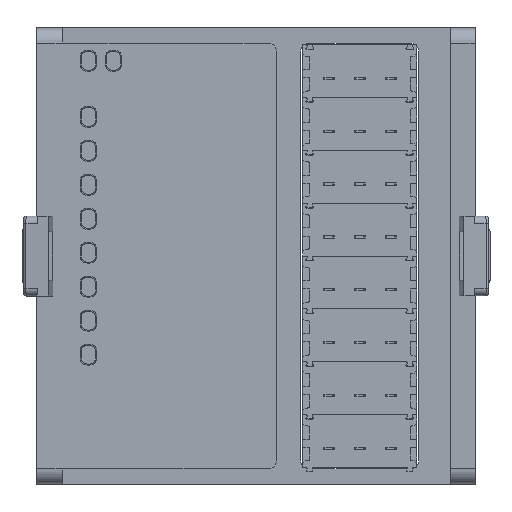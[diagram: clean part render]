
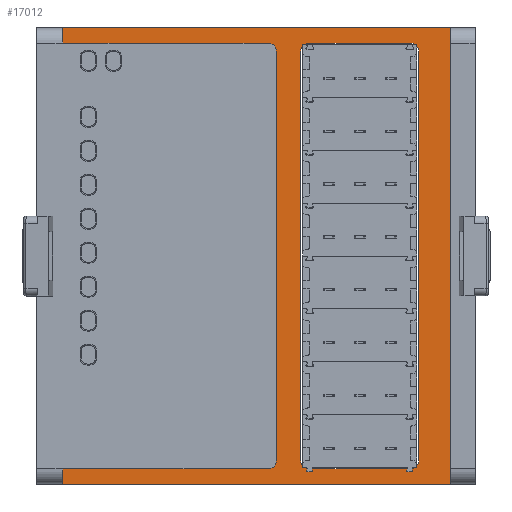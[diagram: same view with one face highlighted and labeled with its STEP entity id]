
A CAD part, front view. The second image highlights one B-rep face of the part: STEP entity #17012.
In plain terms, the highlighted planar face has unit normal (0, -1, 0).
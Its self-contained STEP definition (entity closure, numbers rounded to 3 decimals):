
#2152=FACE_BOUND('',#23176,.T.);
#2153=FACE_BOUND('',#23177,.T.);
#15515=CIRCLE('',#59663,1.);
#15516=CIRCLE('',#59664,1.);
#15517=CIRCLE('',#59665,1.);
#15518=CIRCLE('',#59666,1.);
#15519=CIRCLE('',#59667,1.);
#15520=CIRCLE('',#59668,1.);
#17012=ADVANCED_FACE('',(#2152,#2153),#19247,.T.);
#19247=PLANE('',#59669);
#23176=EDGE_LOOP('',(#26912,#26913,#26914,#26915,#26916,#26917,#26918,#26919,
#26920,#26921,#26922,#26923));
#23177=EDGE_LOOP('',(#26924,#26925,#26926,#26927,#26928,#26929,#26930,#26931));
#26912=ORIENTED_EDGE('',*,*,#43953,.T.);
#26913=ORIENTED_EDGE('',*,*,#43954,.F.);
#26914=ORIENTED_EDGE('',*,*,#43955,.F.);
#26915=ORIENTED_EDGE('',*,*,#43956,.T.);
#26916=ORIENTED_EDGE('',*,*,#43957,.F.);
#26917=ORIENTED_EDGE('',*,*,#43958,.T.);
#26918=ORIENTED_EDGE('',*,*,#43959,.F.);
#26919=ORIENTED_EDGE('',*,*,#43960,.F.);
#26920=ORIENTED_EDGE('',*,*,#43961,.F.);
#26921=ORIENTED_EDGE('',*,*,#43962,.T.);
#26922=ORIENTED_EDGE('',*,*,#43963,.T.);
#26923=ORIENTED_EDGE('',*,*,#43964,.F.);
#26924=ORIENTED_EDGE('',*,*,#43965,.T.);
#26925=ORIENTED_EDGE('',*,*,#43966,.T.);
#26926=ORIENTED_EDGE('',*,*,#43967,.T.);
#26927=ORIENTED_EDGE('',*,*,#43968,.F.);
#26928=ORIENTED_EDGE('',*,*,#43969,.T.);
#26929=ORIENTED_EDGE('',*,*,#43970,.F.);
#26930=ORIENTED_EDGE('',*,*,#43971,.T.);
#26931=ORIENTED_EDGE('',*,*,#43972,.F.);
#39210=VERTEX_POINT('',#77124);
#39211=VERTEX_POINT('',#77125);
#39212=VERTEX_POINT('',#77127);
#39213=VERTEX_POINT('',#77129);
#39214=VERTEX_POINT('',#77131);
#39215=VERTEX_POINT('',#77133);
#39216=VERTEX_POINT('',#77135);
#39217=VERTEX_POINT('',#77137);
#39218=VERTEX_POINT('',#77139);
#39219=VERTEX_POINT('',#77141);
#39220=VERTEX_POINT('',#77143);
#39221=VERTEX_POINT('',#77145);
#39222=VERTEX_POINT('',#77148);
#39223=VERTEX_POINT('',#77149);
#39224=VERTEX_POINT('',#77151);
#39225=VERTEX_POINT('',#77153);
#39226=VERTEX_POINT('',#77155);
#39227=VERTEX_POINT('',#77157);
#39228=VERTEX_POINT('',#77159);
#39229=VERTEX_POINT('',#77161);
#43953=EDGE_CURVE('',#39210,#39211,#15515,.T.);
#43954=EDGE_CURVE('',#39212,#39211,#50326,.T.);
#43955=EDGE_CURVE('',#39213,#39212,#50327,.T.);
#43956=EDGE_CURVE('',#39213,#39214,#50328,.T.);
#43957=EDGE_CURVE('',#39215,#39214,#50329,.T.);
#43958=EDGE_CURVE('',#39215,#39216,#50330,.T.);
#43959=EDGE_CURVE('',#39217,#39216,#50331,.T.);
#43960=EDGE_CURVE('',#39218,#39217,#50332,.T.);
#43961=EDGE_CURVE('',#39219,#39218,#50333,.T.);
#43962=EDGE_CURVE('',#39219,#39220,#50334,.T.);
#43963=EDGE_CURVE('',#39220,#39221,#15516,.T.);
#43964=EDGE_CURVE('',#39210,#39221,#50335,.T.);
#43965=EDGE_CURVE('',#39222,#39223,#15517,.T.);
#43966=EDGE_CURVE('',#39223,#39224,#50336,.T.);
#43967=EDGE_CURVE('',#39224,#39225,#15518,.T.);
#43968=EDGE_CURVE('',#39226,#39225,#50337,.T.);
#43969=EDGE_CURVE('',#39226,#39227,#15519,.T.);
#43970=EDGE_CURVE('',#39228,#39227,#50338,.T.);
#43971=EDGE_CURVE('',#39228,#39229,#15520,.T.);
#43972=EDGE_CURVE('',#39222,#39229,#50339,.T.);
#50326=LINE('',#77126,#54967);
#50327=LINE('',#77128,#54968);
#50328=LINE('',#77130,#54969);
#50329=LINE('',#77132,#54970);
#50330=LINE('',#77134,#54971);
#50331=LINE('',#77136,#54972);
#50332=LINE('',#77138,#54973);
#50333=LINE('',#77140,#54974);
#50334=LINE('',#77142,#54975);
#50335=LINE('',#77146,#54976);
#50336=LINE('',#77150,#54977);
#50337=LINE('',#77154,#54978);
#50338=LINE('',#77158,#54979);
#50339=LINE('',#77162,#54980);
#54967=VECTOR('',#64496,1.);
#54968=VECTOR('',#64497,1.);
#54969=VECTOR('',#64498,1.);
#54970=VECTOR('',#64499,1.);
#54971=VECTOR('',#64500,1.);
#54972=VECTOR('',#64501,1.);
#54973=VECTOR('',#64502,1.);
#54974=VECTOR('',#64503,1.);
#54975=VECTOR('',#64504,1.);
#54976=VECTOR('',#64507,1.);
#54977=VECTOR('',#64510,1.);
#54978=VECTOR('',#64513,1.);
#54979=VECTOR('',#64516,1.);
#54980=VECTOR('',#64519,1.);
#59663=AXIS2_PLACEMENT_3D('',#77123,#64494,#64495);
#59664=AXIS2_PLACEMENT_3D('',#77144,#64505,#64506);
#59665=AXIS2_PLACEMENT_3D('',#77147,#64508,#64509);
#59666=AXIS2_PLACEMENT_3D('',#77152,#64511,#64512);
#59667=AXIS2_PLACEMENT_3D('',#77156,#64514,#64515);
#59668=AXIS2_PLACEMENT_3D('',#77160,#64517,#64518);
#59669=AXIS2_PLACEMENT_3D('',#77163,#64520,#64521);
#64494=DIRECTION('',(0.,1.,0.));
#64495=DIRECTION('',(0.,0.,-1.));
#64496=DIRECTION('',(1.,0.,0.));
#64497=DIRECTION('',(0.,0.,1.));
#64498=DIRECTION('',(1.,0.,0.));
#64499=DIRECTION('',(0.,0.,-1.));
#64500=DIRECTION('',(-1.,0.,0.));
#64501=DIRECTION('',(0.,0.,1.));
#64502=DIRECTION('',(-1.,0.,0.));
#64503=DIRECTION('',(0.,0.,1.));
#64504=DIRECTION('',(1.,0.,0.));
#64505=DIRECTION('',(0.,1.,0.));
#64506=DIRECTION('',(0.,0.,-1.));
#64507=DIRECTION('',(0.,0.,1.));
#64508=DIRECTION('',(0.,1.,0.));
#64509=DIRECTION('',(0.,0.,-1.));
#64510=DIRECTION('',(1.,0.,0.));
#64511=DIRECTION('',(0.,1.,0.));
#64512=DIRECTION('',(0.,0.,-1.));
#64513=DIRECTION('',(0.,0.,1.));
#64514=DIRECTION('',(0.,1.,0.));
#64515=DIRECTION('',(0.,0.,-1.));
#64516=DIRECTION('',(1.,0.,0.));
#64517=DIRECTION('',(0.,1.,0.));
#64518=DIRECTION('',(0.,0.,-1.));
#64519=DIRECTION('',(0.,0.,-1.));
#64520=DIRECTION('',(0.,-1.,0.));
#64521=DIRECTION('',(-1.,0.,0.));
#77123=CARTESIAN_POINT('',(-403.109,171.991,694.458));
#77124=CARTESIAN_POINT('',(-402.109,171.991,694.458));
#77125=CARTESIAN_POINT('',(-403.109,171.991,693.458));
#77126=CARTESIAN_POINT('',(-426.732,171.991,693.458));
#77127=CARTESIAN_POINT('',(-428.388,171.991,693.458));
#77128=CARTESIAN_POINT('',(-428.388,171.991,745.363));
#77129=CARTESIAN_POINT('',(-428.388,171.991,691.558));
#77130=CARTESIAN_POINT('',(-426.732,171.991,691.558));
#77131=CARTESIAN_POINT('',(-380.738,171.991,691.558));
#77132=CARTESIAN_POINT('',(-380.738,171.991,745.363));
#77133=CARTESIAN_POINT('',(-380.738,171.991,747.763));
#77134=CARTESIAN_POINT('',(-426.732,171.991,747.763));
#77135=CARTESIAN_POINT('',(-428.388,171.991,747.763));
#77136=CARTESIAN_POINT('',(-428.388,171.991,745.363));
#77137=CARTESIAN_POINT('',(-428.388,171.991,745.863));
#77138=CARTESIAN_POINT('',(-426.732,171.991,745.863));
#77139=CARTESIAN_POINT('',(-418.609,171.991,745.863));
#77140=CARTESIAN_POINT('',(-418.609,171.991,727.377));
#77141=CARTESIAN_POINT('',(-418.609,171.991,745.858));
#77142=CARTESIAN_POINT('',(-426.732,171.991,745.858));
#77143=CARTESIAN_POINT('',(-403.109,171.991,745.858));
#77144=CARTESIAN_POINT('',(-403.109,171.991,744.858));
#77145=CARTESIAN_POINT('',(-402.109,171.991,744.858));
#77146=CARTESIAN_POINT('',(-402.109,171.991,694.458));
#77147=CARTESIAN_POINT('',(-398.109,171.991,744.858));
#77148=CARTESIAN_POINT('',(-399.109,171.991,744.858));
#77149=CARTESIAN_POINT('',(-398.109,171.991,745.858));
#77150=CARTESIAN_POINT('',(-426.732,171.991,745.858));
#77151=CARTESIAN_POINT('',(-385.609,171.991,745.858));
#77152=CARTESIAN_POINT('',(-385.609,171.991,744.858));
#77153=CARTESIAN_POINT('',(-384.609,171.991,744.858));
#77154=CARTESIAN_POINT('',(-384.609,171.991,727.377));
#77155=CARTESIAN_POINT('',(-384.609,171.991,694.458));
#77156=CARTESIAN_POINT('',(-385.609,171.991,694.458));
#77157=CARTESIAN_POINT('',(-385.609,171.991,693.458));
#77158=CARTESIAN_POINT('',(-426.732,171.991,693.458));
#77159=CARTESIAN_POINT('',(-398.109,171.991,693.458));
#77160=CARTESIAN_POINT('',(-398.109,171.991,694.458));
#77161=CARTESIAN_POINT('',(-399.109,171.991,694.458));
#77162=CARTESIAN_POINT('',(-399.109,171.991,744.858));
#77163=CARTESIAN_POINT('',(-426.732,171.991,727.377));
